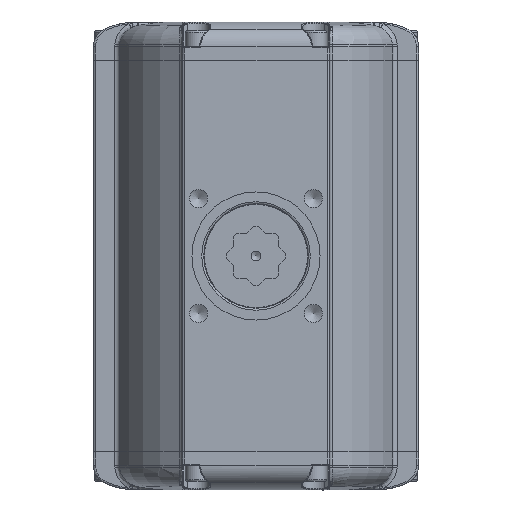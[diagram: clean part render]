
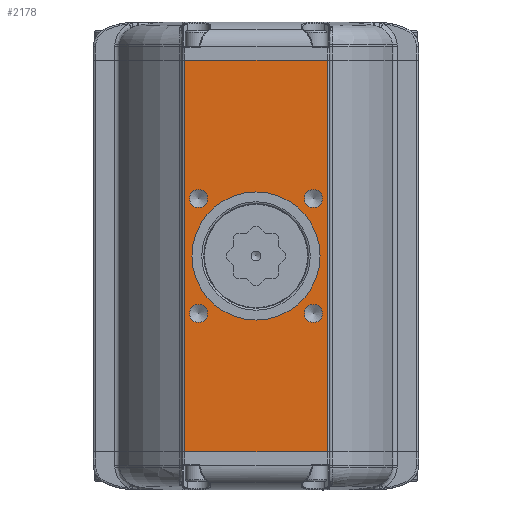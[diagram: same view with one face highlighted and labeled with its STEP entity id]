
A CAD part, front view. The second image highlights one B-rep face of the part: STEP entity #2178.
In plain terms, the highlighted planar face has unit normal (0, -1, 0).
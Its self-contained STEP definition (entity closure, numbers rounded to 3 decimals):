
#826=CARTESIAN_POINT('',(-72.5,-175.,198.5));
#827=VERTEX_POINT('',#826);
#835=CARTESIAN_POINT('',(72.5,-175.,198.5));
#836=VERTEX_POINT('',#835);
#837=CARTESIAN_POINT('',(72.5,-175.,198.5));
#838=DIRECTION('',(-1.0,0.0,0.0));
#839=VECTOR('',#838,145.);
#840=LINE('',#837,#839);
#841=EDGE_CURVE('',#836,#827,#840,.T.);
#1197=CARTESIAN_POINT('',(72.5,-175.,-198.5));
#1198=VERTEX_POINT('',#1197);
#1206=CARTESIAN_POINT('',(-72.5,-175.,-198.5));
#1207=VERTEX_POINT('',#1206);
#1208=CARTESIAN_POINT('',(-72.5,-175.,-198.5));
#1209=DIRECTION('',(1.0,0.0,0.0));
#1210=VECTOR('',#1209,145.);
#1211=LINE('',#1208,#1210);
#1212=EDGE_CURVE('',#1207,#1198,#1211,.T.);
#1446=CARTESIAN_POINT('',(-49.148,-175.,58.336));
#1447=VERTEX_POINT('',#1446);
#1448=CARTESIAN_POINT('',(-58.336,-175.,58.336));
#1449=DIRECTION('',(0.0,1.0,0.0));
#1450=DIRECTION('',(1.0,0.0,0.0));
#1451=AXIS2_PLACEMENT_3D('',#1448,#1449,#1450);
#1452=CIRCLE('',#1451,9.188);
#1453=EDGE_CURVE('',#1447,#1447,#1452,.T.);
#1483=CARTESIAN_POINT('',(67.524,-175.,-58.336));
#1484=VERTEX_POINT('',#1483);
#1485=CARTESIAN_POINT('',(58.336,-175.,-58.336));
#1486=DIRECTION('',(0.0,1.0,0.0));
#1487=DIRECTION('',(1.0,0.0,0.0));
#1488=AXIS2_PLACEMENT_3D('',#1485,#1486,#1487);
#1489=CIRCLE('',#1488,9.188);
#1490=EDGE_CURVE('',#1484,#1484,#1489,.T.);
#1520=CARTESIAN_POINT('',(-49.148,-175.,-58.336));
#1521=VERTEX_POINT('',#1520);
#1522=CARTESIAN_POINT('',(-58.336,-175.,-58.336));
#1523=DIRECTION('',(0.0,1.0,0.0));
#1524=DIRECTION('',(1.0,0.0,0.0));
#1525=AXIS2_PLACEMENT_3D('',#1522,#1523,#1524);
#1526=CIRCLE('',#1525,9.188);
#1527=EDGE_CURVE('',#1521,#1521,#1526,.T.);
#1557=CARTESIAN_POINT('',(67.524,-175.,58.336));
#1558=VERTEX_POINT('',#1557);
#1559=CARTESIAN_POINT('',(58.336,-175.,58.336));
#1560=DIRECTION('',(0.0,1.0,0.0));
#1561=DIRECTION('',(1.0,0.0,0.0));
#1562=AXIS2_PLACEMENT_3D('',#1559,#1560,#1561);
#1563=CIRCLE('',#1562,9.188);
#1564=EDGE_CURVE('',#1558,#1558,#1563,.T.);
#1577=CARTESIAN_POINT('',(0.0,-175.,65.0));
#1578=VERTEX_POINT('',#1577);
#1579=CARTESIAN_POINT('',(0.0,-175.,0.0));
#1580=DIRECTION('',(0.0,1.0,0.0));
#1581=DIRECTION('',(0.0,0.0,1.0));
#1582=AXIS2_PLACEMENT_3D('',#1579,#1580,#1581);
#1583=CIRCLE('',#1582,65.0);
#1584=EDGE_CURVE('',#1578,#1578,#1583,.T.);
#2131=CARTESIAN_POINT('',(72.5,-175.,198.5));
#2132=DIRECTION('',(0.0,0.0,-1.0));
#2133=VECTOR('',#2132,397.0);
#2134=LINE('',#2131,#2133);
#2135=EDGE_CURVE('',#836,#1198,#2134,.T.);
#2147=CARTESIAN_POINT('',(75.,-175.,0.0));
#2148=DIRECTION('',(0.0,-1.0,0.0));
#2149=DIRECTION('',(0.0,0.0,-1.0));
#2150=AXIS2_PLACEMENT_3D('',#2147,#2148,#2149);
#2151=PLANE('',#2150);
#2152=ORIENTED_EDGE('',*,*,#2135,.F.);
#2153=ORIENTED_EDGE('',*,*,#841,.T.);
#2154=CARTESIAN_POINT('',(-72.5,-175.,-198.5));
#2155=DIRECTION('',(0.0,0.0,1.0));
#2156=VECTOR('',#2155,397.0);
#2157=LINE('',#2154,#2156);
#2158=EDGE_CURVE('',#1207,#827,#2157,.T.);
#2159=ORIENTED_EDGE('',*,*,#2158,.F.);
#2160=ORIENTED_EDGE('',*,*,#1212,.T.);
#2161=EDGE_LOOP('',(#2152,#2153,#2159,#2160));
#2162=FACE_OUTER_BOUND('',#2161,.T.);
#2163=ORIENTED_EDGE('',*,*,#1453,.T.);
#2164=EDGE_LOOP('',(#2163));
#2165=FACE_BOUND('',#2164,.T.);
#2166=ORIENTED_EDGE('',*,*,#1490,.T.);
#2167=EDGE_LOOP('',(#2166));
#2168=FACE_BOUND('',#2167,.T.);
#2169=ORIENTED_EDGE('',*,*,#1527,.T.);
#2170=EDGE_LOOP('',(#2169));
#2171=FACE_BOUND('',#2170,.T.);
#2172=ORIENTED_EDGE('',*,*,#1564,.T.);
#2173=EDGE_LOOP('',(#2172));
#2174=FACE_BOUND('',#2173,.T.);
#2175=ORIENTED_EDGE('',*,*,#1584,.T.);
#2176=EDGE_LOOP('',(#2175));
#2177=FACE_BOUND('',#2176,.T.);
#2178=ADVANCED_FACE('',(#2162,#2165,#2168,#2171,#2174,#2177),#2151,.T.);
